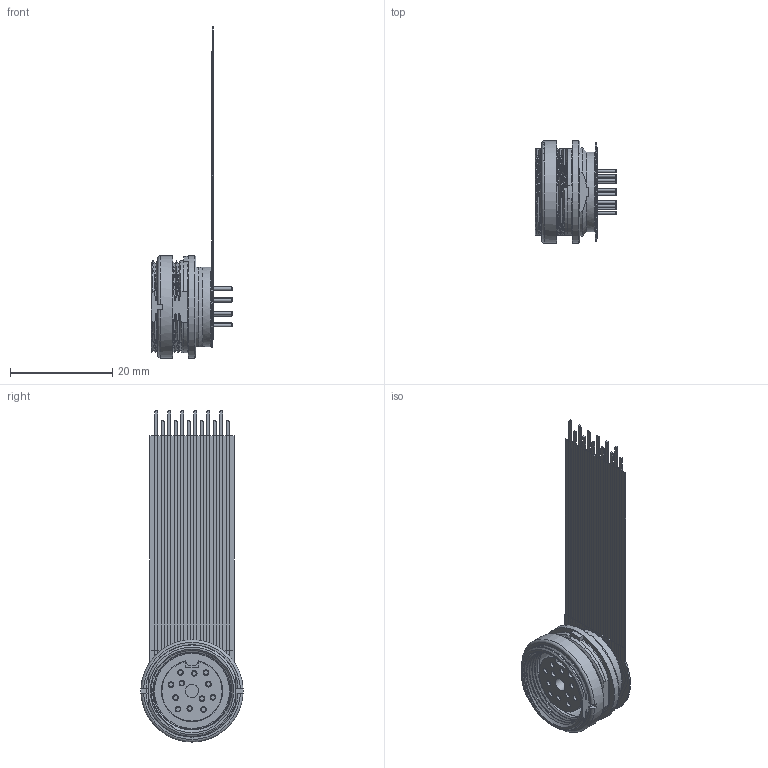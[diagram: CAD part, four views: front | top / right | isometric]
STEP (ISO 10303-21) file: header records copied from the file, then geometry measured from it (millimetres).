
FILE_DESCRIPTION(/* description */ (''),/* implementation_level */ '2;1');
FILE_NAME(/* name */ '09 0332 65 12 001_01-12pol. FD.stp',/* time_stamp */ '2017-08-01T10:03:30+02:00',/* author */ (''),/* organization */ (''),/* preprocessor_version */ 'ST-DEVELOPER v16',/* originating_system */ 'SIEMENS PLM Software NX 11.0',/* authorisation */ '');
FILE_SCHEMA (('AUTOMOTIVE_DESIGN { 1 0 10303 214 3 1 1 1 }'));
Length unit declared in the file: millimetre
Products named in the file (1): smag0BF8E686zoqz
Bounding box: 16.05 x 20 x 65 mm (x, y, z)
Volume: 196.1 mm3; surface area: 4989 mm2
Topology: 1 solids, 2 shells, 935 faces, 2519 edges, 1652 vertices
Faces by surface type: plane 513, cylinder 245, cone 93, torus 43, bspline 41
Full cylindrical faces by diameter (mm): 0.6 x12, 1.1 x12, 1.6 x12, 2.6 x1, 15.1 x1, 15.6 x1, 18.1 x1, 20 x2
Entity records: 49485 total; most frequent: CARTESIAN_POINT 26809, ORIENTED_EDGE 4832, DIRECTION 4427, EDGE_CURVE 2416, VERTEX_POINT 1621, AXIS2_PLACEMENT_3D 1528, LINE 1371, VECTOR 1371
